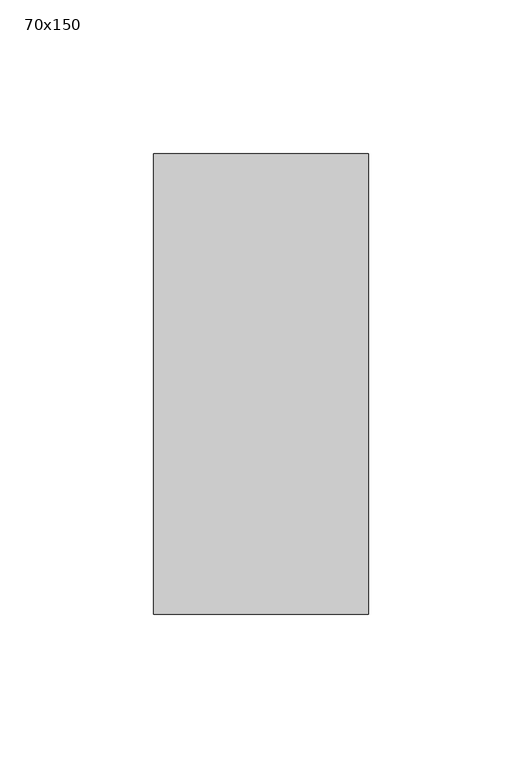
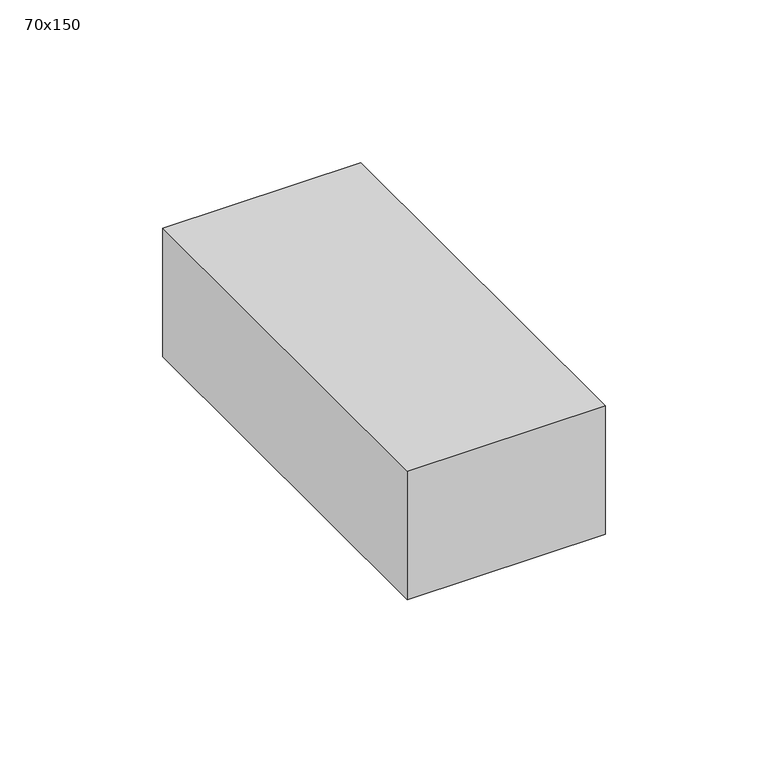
"""IFC4 building model written with IfcOpenShell, lengths in millimetres: member geometry, 長方形のマリオン : 70x150."""

from ifc_helpers import new_model, si_unit, frame, origin, place, context, project, spatial, polyline, outline, extrude, source, transform, mapped, element, save


def member_70x150_f2f57c5c(model_context):
    return source(origin(), model_context, "Body", "SweptSolid", [
        extrude(outline(polyline([(0.0, 75.0), (0.0, -75.0), (-70.0, -75.0), (-70.0, 75.0), (0.0, 75.0)])), frame((0.0, 0.0, -48.1004833), z_axis=(0.0, 0.0, 1.0), x_axis=(1.0, 0.0, 0.0)), (0.0, 0.0, 1.0), 48.1004833),
    ])


if __name__ == "__main__":
    model = new_model("IFC4")
    model_context = context("Model", 3, world=origin())
    ifc_project = project(units=[si_unit("LENGTHUNIT", "METRE", prefix="MILLI")], contexts=[model_context])
    site = spatial("IfcSite", under=ifc_project)
    building = spatial("IfcBuilding", under=site)
    placement = place(None, origin())
    member_70x150_shape = member_70x150_f2f57c5c(model_context)
    element("IfcMember", 1, ObjectType="長方形のマリオン : 70x150", at=placement, inside=building, context=model_context, shape_type="MappedRepresentation", body=[
        mapped(member_70x150_shape, transform((0.0, 0.0, 0.0), x_axis=(1.0, 0.0, 0.0), y_axis=(0.0, 1.0, 0.0), z_axis=(0.0, 0.0, 1.0))),
    ])
    save(model, "model.ifc")
